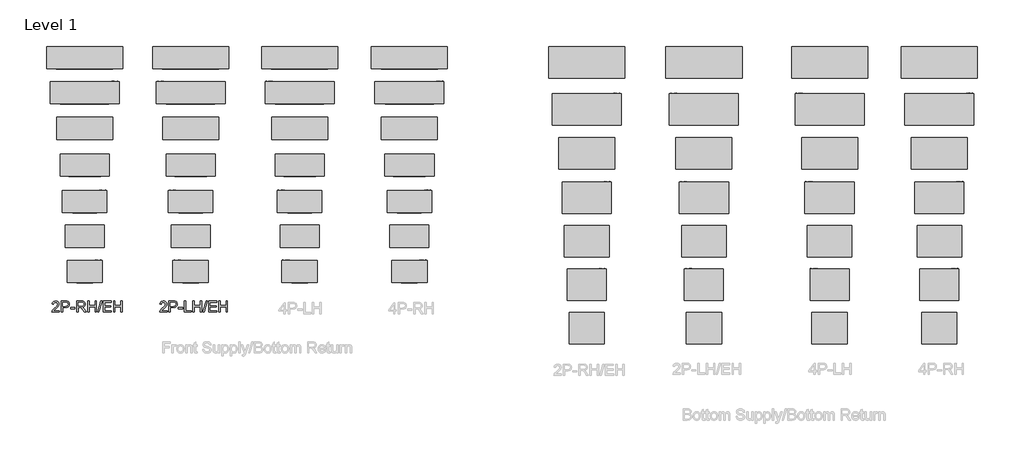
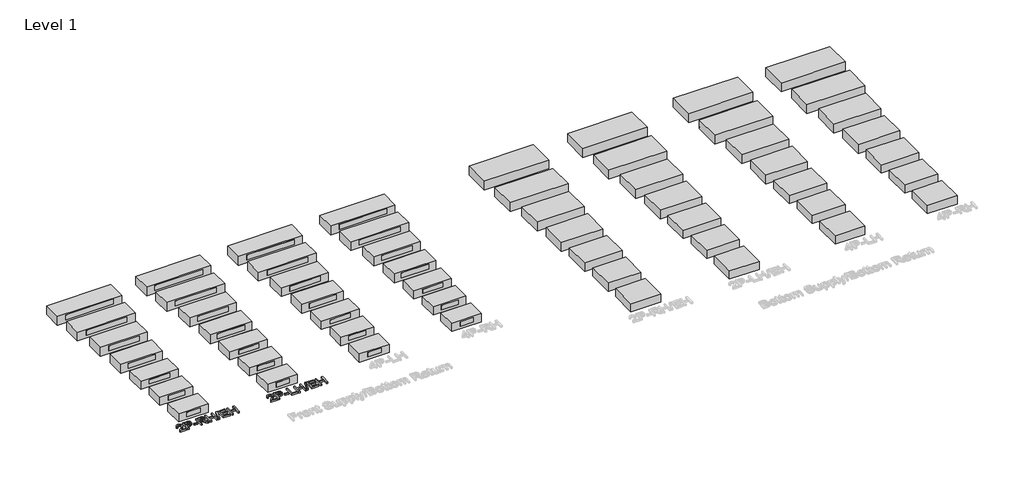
# One storey, part 1 of 3: 58 proxies.
"""IFC4 building model written with IfcOpenShell, lengths in millimetres."""

from ifc_helpers import new_model, si_unit, origin, origin_with_axes, place, context, project, spatial, polyline, outline, extrude, transform, mapped, element, save
from components import mechanical_equipment_5ee57af4, mechanical_equipment_e465686b, mechanical_equipment_94f99954, mechanical_equipment_ac6c5931, mechanical_equipment_21327851, mechanical_equipment_da27d940, mechanical_equipment_d7bd8505, mechanical_equipment_d0c3bb7a, mechanical_equipment_c078aeba, mechanical_equipment_1a6eef26, mechanical_equipment_794acc92, mechanical_equipment_6c2658dc, mechanical_equipment_a888a23b, mechanical_equipment_3c0bcfd1, mechanical_equipment_0ee400d0, mechanical_equipment_7b0bbd4d, mechanical_equipment_0ba431d4, mechanical_equipment_149bba12, mechanical_equipment_08224178, mechanical_equipment_e0740a78, mechanical_equipment_6e790af8, mechanical_equipment_f0572493, mechanical_equipment_2356f45e, mechanical_equipment_0d85670f, mechanical_equipment_b646ea03, mechanical_equipment_96186353, mechanical_equipment_3e15ce00, mechanical_equipment_b5fd1289, mechanical_equipment_5cce3134, mechanical_equipment_e1928472, mechanical_equipment_f42b3099, mechanical_equipment_954641ab, mechanical_equipment_68a452e6, mechanical_equipment_6dd201c2, mechanical_equipment_812de0b3, mechanical_equipment_b571c7ca, mechanical_equipment_8cf3cfa9, mechanical_equipment_150578db, mechanical_equipment_9e45b63e, mechanical_equipment_c74f09e5, mechanical_equipment_b96b5262, mechanical_equipment_1a19e6a5, mechanical_equipment_698a5b52, mechanical_equipment_a5131ff5, mechanical_equipment_9d567b45, mechanical_equipment_0be943ba, mechanical_equipment_d7096ecd, mechanical_equipment_69ed5b6a, mechanical_equipment_0c63f588, mechanical_equipment_85c1250f, mechanical_equipment_f442c28c, mechanical_equipment_c241eb8b, mechanical_equipment_f25a14e5, mechanical_equipment_fc63b11a, mechanical_equipment_cb84b873, mechanical_equipment_ee9fbc93

model = new_model("IFC4")

# Units and contexts
model_context = context("Model", 3, world=origin())
ifc_project = project(units=[si_unit("LENGTHUNIT", "METRE", prefix="MILLI")], contexts=[model_context])

# Site, building, storey
site = spatial("IfcSite", under=ifc_project)
building = spatial("IfcBuilding", under=site)
storey = spatial("IfcBuildingStorey", under=building, Name="Level 1", Elevation=0.0)

# Proxies
placement = place(None, origin())
mechanical_equipment_shape = mechanical_equipment_5ee57af4(model_context)
element("IfcBuildingElementProxy", 1, Name="Exposed_Horizontal_Fan_Coil_Unit_-_42CGB_-_CARRIER_-_2-Pipe_Cool-EHeat_FS-BR_RH_2022 : Size 02 - 277v/60Hz/1Ph - 4 Row 2.0kW", ObjectType="Exposed_Horizontal_Fan_Coil_Unit_-_42CGB_-_CARRIER_-_2-Pipe_Cool-EHeat_FS-BR_RH_2022 : Size 02 - 277v/60Hz/1Ph - 4 Row 2.0kW", at=placement, inside=storey, context=model_context, shape_type="MappedRepresentation", body=[
    mapped(mechanical_equipment_shape, transform((-11356.1371059, -1561.6323229, 0.0), x_axis=(1.0, 0.0, 0.0), y_axis=(0.0, 1.0, 0.0), z_axis=(0.0, 0.0, 1.0))),
])
mechanical_equipment_2_shape = mechanical_equipment_e465686b(model_context)
element("IfcBuildingElementProxy", 2, Name="Exposed_Horizontal_Fan_Coil_Unit_-_42CGB_-_CARRIER_-_2-Pipe_Cool-EHeat_FS-BR_RH_2022 : Size 03 - 277v/60Hz/1Ph - 4 Row 3.0kW", ObjectType="Exposed_Horizontal_Fan_Coil_Unit_-_42CGB_-_CARRIER_-_2-Pipe_Cool-EHeat_FS-BR_RH_2022 : Size 03 - 277v/60Hz/1Ph - 4 Row 3.0kW", at=placement, inside=storey, context=model_context, shape_type="MappedRepresentation", body=[
    mapped(mechanical_equipment_2_shape, transform((-11356.1371059, -600.095026, 0.0), x_axis=(1.0, 0.0, 0.0), y_axis=(0.0, 1.0, 0.0), z_axis=(0.0, 0.0, 1.0))),
])
mechanical_equipment_3_shape = mechanical_equipment_94f99954(model_context)
element("IfcBuildingElementProxy", 3, Name="Exposed_Horizontal_Fan_Coil_Unit_-_42CGB_-_CARRIER_-_2-Pipe_Cool-EHeat_FS-BR_RH_2022 : Size 04 - 277v/60Hz/1Ph - 4 Row 3.0kW", ObjectType="Exposed_Horizontal_Fan_Coil_Unit_-_42CGB_-_CARRIER_-_2-Pipe_Cool-EHeat_FS-BR_RH_2022 : Size 04 - 277v/60Hz/1Ph - 4 Row 3.0kW", at=placement, inside=storey, context=model_context, shape_type="MappedRepresentation", body=[
    mapped(mechanical_equipment_3_shape, transform((-11356.1371059, 353.6879379, 0.0), x_axis=(1.0, 0.0, 0.0), y_axis=(0.0, 1.0, 0.0), z_axis=(0.0, 0.0, 1.0))),
])
mechanical_equipment_4_shape = mechanical_equipment_ac6c5931(model_context)
element("IfcBuildingElementProxy", 4, Name="Exposed_Horizontal_Fan_Coil_Unit_-_42CGB_-_CARRIER_-_2-Pipe_Cool-EHeat_FS-BR_RH_2022 : Size 06 - 277v/60Hz/1Ph - 4 Row 6.0kW", ObjectType="Exposed_Horizontal_Fan_Coil_Unit_-_42CGB_-_CARRIER_-_2-Pipe_Cool-EHeat_FS-BR_RH_2022 : Size 06 - 277v/60Hz/1Ph - 4 Row 6.0kW", at=placement, inside=storey, context=model_context, shape_type="MappedRepresentation", body=[
    mapped(mechanical_equipment_4_shape, transform((-11356.1371059, 1346.2425669, 0.0), x_axis=(1.0, 0.0, 0.0), y_axis=(0.0, 1.0, 0.0), z_axis=(0.0, 0.0, 1.0))),
])
mechanical_equipment_5_shape = mechanical_equipment_21327851(model_context)
element("IfcBuildingElementProxy", 5, Name="Exposed_Horizontal_Fan_Coil_Unit_-_42CGB_-_CARRIER_-_2-Pipe_Cool-EHeat_FS-BR_RH_2022 : Size 08 - 277v/60Hz/1Ph - 4 Row 6.0kW", ObjectType="Exposed_Horizontal_Fan_Coil_Unit_-_42CGB_-_CARRIER_-_2-Pipe_Cool-EHeat_FS-BR_RH_2022 : Size 08 - 277v/60Hz/1Ph - 4 Row 6.0kW", at=placement, inside=storey, context=model_context, shape_type="MappedRepresentation", body=[
    mapped(mechanical_equipment_5_shape, transform((-11356.1371059, 2354.3058621, 0.0), x_axis=(1.0, 0.0, 0.0), y_axis=(0.0, 1.0, 0.0), z_axis=(0.0, 0.0, 1.0))),
])
mechanical_equipment_6_shape = mechanical_equipment_da27d940(model_context)
element("IfcBuildingElementProxy", 6, Name="Exposed_Horizontal_Fan_Coil_Unit_-_42CGB_-_CARRIER_-_2-Pipe_Cool-EHeat_FS-BR_RH_2022 : Size 10 - 277v/60Hz/1Ph - 4 Row 8.0kW", ObjectType="Exposed_Horizontal_Fan_Coil_Unit_-_42CGB_-_CARRIER_-_2-Pipe_Cool-EHeat_FS-BR_RH_2022 : Size 10 - 277v/60Hz/1Ph - 4 Row 8.0kW", at=placement, inside=storey, context=model_context, shape_type="MappedRepresentation", body=[
    mapped(mechanical_equipment_6_shape, transform((-11356.1371059, 3331.351825, 0.0), x_axis=(1.0, 0.0, 0.0), y_axis=(0.0, 1.0, 0.0), z_axis=(0.0, 0.0, 1.0))),
])
mechanical_equipment_7_shape = mechanical_equipment_d7bd8505(model_context)
element("IfcBuildingElementProxy", 7, Name="Exposed_Horizontal_Fan_Coil_Unit_-_42CGB_-_CARRIER_-_2-Pipe_Cool-EHeat_FS-BR_RH_2022 : Size 12 - 277v/60Hz/1Ph - 4 Row 10.0kW", ObjectType="Exposed_Horizontal_Fan_Coil_Unit_-_42CGB_-_CARRIER_-_2-Pipe_Cool-EHeat_FS-BR_RH_2022 : Size 12 - 277v/60Hz/1Ph - 4 Row 10.0kW", at=placement, inside=storey, context=model_context, shape_type="MappedRepresentation", body=[
    mapped(mechanical_equipment_7_shape, transform((-11356.1371059, 4282.0225867, 0.0), x_axis=(1.0, 0.0, 0.0), y_axis=(0.0, 1.0, 0.0), z_axis=(0.0, 0.0, 1.0))),
])
mechanical_equipment_8_shape = mechanical_equipment_d0c3bb7a(model_context)
element("IfcBuildingElementProxy", 8, Name="Exposed_Horizontal_Fan_Coil_Unit_-_42CGB_-_CARRIER_-_4-Pipe_FS-BR_RH_2022 : Size 02 - 277v/60Hz/1Ph - 4/1 Coil", ObjectType="Exposed_Horizontal_Fan_Coil_Unit_-_42CGB_-_CARRIER_-_4-Pipe_FS-BR_RH_2022 : Size 02 - 277v/60Hz/1Ph - 4/1 Coil", at=placement, inside=storey, context=model_context, shape_type="MappedRepresentation", body=[
    mapped(mechanical_equipment_8_shape, transform((-2485.6732188, -1561.6323229, 0.0), x_axis=(1.0, 0.0, 0.0), y_axis=(0.0, 1.0, 0.0), z_axis=(0.0, 0.0, 1.0))),
])
mechanical_equipment_9_shape = mechanical_equipment_c078aeba(model_context)
element("IfcBuildingElementProxy", 9, Name="Exposed_Horizontal_Fan_Coil_Unit_-_42CGB_-_CARRIER_-_4-Pipe_FS-BR_RH_2022 : Size 03 - 277v/60Hz/1Ph - 4/1 Coil", ObjectType="Exposed_Horizontal_Fan_Coil_Unit_-_42CGB_-_CARRIER_-_4-Pipe_FS-BR_RH_2022 : Size 03 - 277v/60Hz/1Ph - 4/1 Coil", at=placement, inside=storey, context=model_context, shape_type="MappedRepresentation", body=[
    mapped(mechanical_equipment_9_shape, transform((-2485.6732188, -600.095026, 0.0), x_axis=(1.0, 0.0, 0.0), y_axis=(0.0, 1.0, 0.0), z_axis=(0.0, 0.0, 1.0))),
])
mechanical_equipment_10_shape = mechanical_equipment_1a6eef26(model_context)
element("IfcBuildingElementProxy", 10, Name="Exposed_Horizontal_Fan_Coil_Unit_-_42CGB_-_CARRIER_-_4-Pipe_FS-BR_RH_2022 : Size 04 - 277v/60Hz/1Ph - 4/1 Coil", ObjectType="Exposed_Horizontal_Fan_Coil_Unit_-_42CGB_-_CARRIER_-_4-Pipe_FS-BR_RH_2022 : Size 04 - 277v/60Hz/1Ph - 4/1 Coil", at=placement, inside=storey, context=model_context, shape_type="MappedRepresentation", body=[
    mapped(mechanical_equipment_10_shape, transform((-2485.6732188, 353.6879379, 0.0), x_axis=(1.0, 0.0, 0.0), y_axis=(0.0, 1.0, 0.0), z_axis=(0.0, 0.0, 1.0))),
])
mechanical_equipment_11_shape = mechanical_equipment_794acc92(model_context)
element("IfcBuildingElementProxy", 11, Name="Exposed_Horizontal_Fan_Coil_Unit_-_42CGB_-_CARRIER_-_4-Pipe_FS-BR_RH_2022 : Size 06 - 277v/60Hz/1Ph - 4/1 Coil", ObjectType="Exposed_Horizontal_Fan_Coil_Unit_-_42CGB_-_CARRIER_-_4-Pipe_FS-BR_RH_2022 : Size 06 - 277v/60Hz/1Ph - 4/1 Coil", at=placement, inside=storey, context=model_context, shape_type="MappedRepresentation", body=[
    mapped(mechanical_equipment_11_shape, transform((-2485.6732188, 1346.2425669, 0.0), x_axis=(1.0, 0.0, 0.0), y_axis=(0.0, 1.0, 0.0), z_axis=(0.0, 0.0, 1.0))),
])
mechanical_equipment_12_shape = mechanical_equipment_6c2658dc(model_context)
element("IfcBuildingElementProxy", 12, Name="Exposed_Horizontal_Fan_Coil_Unit_-_42CGB_-_CARRIER_-_4-Pipe_FS-BR_RH_2022 : Size 08 - 277v/60Hz/1Ph - 4/1 Coil", ObjectType="Exposed_Horizontal_Fan_Coil_Unit_-_42CGB_-_CARRIER_-_4-Pipe_FS-BR_RH_2022 : Size 08 - 277v/60Hz/1Ph - 4/1 Coil", at=placement, inside=storey, context=model_context, shape_type="MappedRepresentation", body=[
    mapped(mechanical_equipment_12_shape, transform((-2485.6732188, 2354.3058621, 0.0), x_axis=(1.0, 0.0, 0.0), y_axis=(0.0, 1.0, 0.0), z_axis=(0.0, 0.0, 1.0))),
])
mechanical_equipment_13_shape = mechanical_equipment_a888a23b(model_context)
element("IfcBuildingElementProxy", 13, Name="Exposed_Horizontal_Fan_Coil_Unit_-_42CGB_-_CARRIER_-_4-Pipe_FS-BR_RH_2022 : Size 10 - 277v/60Hz/1Ph - 4/1 Coil", ObjectType="Exposed_Horizontal_Fan_Coil_Unit_-_42CGB_-_CARRIER_-_4-Pipe_FS-BR_RH_2022 : Size 10 - 277v/60Hz/1Ph - 4/1 Coil", at=placement, inside=storey, context=model_context, shape_type="MappedRepresentation", body=[
    mapped(mechanical_equipment_13_shape, transform((-2485.6732188, 3331.351825, 0.0), x_axis=(1.0, 0.0, 0.0), y_axis=(0.0, 1.0, 0.0), z_axis=(0.0, 0.0, 1.0))),
])
mechanical_equipment_14_shape = mechanical_equipment_3c0bcfd1(model_context)
element("IfcBuildingElementProxy", 14, Name="Exposed_Horizontal_Fan_Coil_Unit_-_42CGB_-_CARRIER_-_4-Pipe_FS-BR_RH_2022 : Size 12 - 277v/60Hz/1Ph - 4/1 Coil", ObjectType="Exposed_Horizontal_Fan_Coil_Unit_-_42CGB_-_CARRIER_-_4-Pipe_FS-BR_RH_2022 : Size 12 - 277v/60Hz/1Ph - 4/1 Coil", at=placement, inside=storey, context=model_context, shape_type="MappedRepresentation", body=[
    mapped(mechanical_equipment_14_shape, transform((-2485.6732188, 4282.0225867, 0.0), x_axis=(1.0, 0.0, 0.0), y_axis=(0.0, 1.0, 0.0), z_axis=(0.0, 0.0, 1.0))),
])
mechanical_equipment_15_shape = mechanical_equipment_0ee400d0(model_context)
element("IfcBuildingElementProxy", 15, Name="Exposed_Horizontal_Fan_Coil_Unit_-_42CGB_-_CARRIER_-_2-Pipe_Cool-EHeat_BS-BR_LH_2022 : Size 02 - 277v/60Hz/1Ph - 4 Row 2.0kW", ObjectType="Exposed_Horizontal_Fan_Coil_Unit_-_42CGB_-_CARRIER_-_2-Pipe_Cool-EHeat_BS-BR_LH_2022 : Size 02 - 277v/60Hz/1Ph - 4 Row 2.0kW", at=placement, inside=storey, context=model_context, shape_type="MappedRepresentation", body=[
    mapped(mechanical_equipment_15_shape, transform((5560.2628941, -3111.0323229, 0.0), x_axis=(1.0, 0.0, 0.0), y_axis=(0.0, 1.0, 0.0), z_axis=(0.0, 0.0, 1.0))),
])
mechanical_equipment_16_shape = mechanical_equipment_7b0bbd4d(model_context)
element("IfcBuildingElementProxy", 16, Name="Exposed_Horizontal_Fan_Coil_Unit_-_42CGB_-_CARRIER_-_2-Pipe_Cool-EHeat_BS-BR_LH_2022 : Size 03 - 277v/60Hz/1Ph - 4 Row 3.0kW", ObjectType="Exposed_Horizontal_Fan_Coil_Unit_-_42CGB_-_CARRIER_-_2-Pipe_Cool-EHeat_BS-BR_LH_2022 : Size 03 - 277v/60Hz/1Ph - 4 Row 3.0kW", at=placement, inside=storey, context=model_context, shape_type="MappedRepresentation", body=[
    mapped(mechanical_equipment_16_shape, transform((5560.2628941, -1920.895026, 0.0), x_axis=(1.0, 0.0, 0.0), y_axis=(0.0, 1.0, 0.0), z_axis=(0.0, 0.0, 1.0))),
])
mechanical_equipment_17_shape = mechanical_equipment_0ba431d4(model_context)
element("IfcBuildingElementProxy", 17, Name="Exposed_Horizontal_Fan_Coil_Unit_-_42CGB_-_CARRIER_-_2-Pipe_Cool-EHeat_BS-BR_LH_2022 : Size 04 - 277v/60Hz/1Ph - 4 Row 3.0kW", ObjectType="Exposed_Horizontal_Fan_Coil_Unit_-_42CGB_-_CARRIER_-_2-Pipe_Cool-EHeat_BS-BR_LH_2022 : Size 04 - 277v/60Hz/1Ph - 4 Row 3.0kW", at=placement, inside=storey, context=model_context, shape_type="MappedRepresentation", body=[
    mapped(mechanical_equipment_17_shape, transform((5560.2628941, -738.5120621, 0.0), x_axis=(1.0, 0.0, 0.0), y_axis=(0.0, 1.0, 0.0), z_axis=(0.0, 0.0, 1.0))),
])
mechanical_equipment_18_shape = mechanical_equipment_149bba12(model_context)
element("IfcBuildingElementProxy", 18, Name="Exposed_Horizontal_Fan_Coil_Unit_-_42CGB_-_CARRIER_-_2-Pipe_Cool-EHeat_BS-BR_LH_2022 : Size 06 - 277v/60Hz/1Ph - 4 Row 6.0kW", ObjectType="Exposed_Horizontal_Fan_Coil_Unit_-_42CGB_-_CARRIER_-_2-Pipe_Cool-EHeat_BS-BR_LH_2022 : Size 06 - 277v/60Hz/1Ph - 4 Row 6.0kW", at=placement, inside=storey, context=model_context, shape_type="MappedRepresentation", body=[
    mapped(mechanical_equipment_18_shape, transform((5560.2628941, 457.2425669, 0.0), x_axis=(1.0, 0.0, 0.0), y_axis=(0.0, 1.0, 0.0), z_axis=(0.0, 0.0, 1.0))),
])
mechanical_equipment_19_shape = mechanical_equipment_08224178(model_context)
element("IfcBuildingElementProxy", 19, Name="Exposed_Horizontal_Fan_Coil_Unit_-_42CGB_-_CARRIER_-_2-Pipe_Cool-EHeat_BS-BR_LH_2022 : Size 08 - 277v/60Hz/1Ph - 4 Row 6.0kW", ObjectType="Exposed_Horizontal_Fan_Coil_Unit_-_42CGB_-_CARRIER_-_2-Pipe_Cool-EHeat_BS-BR_LH_2022 : Size 08 - 277v/60Hz/1Ph - 4 Row 6.0kW", at=placement, inside=storey, context=model_context, shape_type="MappedRepresentation", body=[
    mapped(mechanical_equipment_19_shape, transform((5560.2628941, 1668.5058621, 0.0), x_axis=(1.0, 0.0, 0.0), y_axis=(0.0, 1.0, 0.0), z_axis=(0.0, 0.0, 1.0))),
])
mechanical_equipment_20_shape = mechanical_equipment_e0740a78(model_context)
element("IfcBuildingElementProxy", 20, Name="Exposed_Horizontal_Fan_Coil_Unit_-_42CGB_-_CARRIER_-_2-Pipe_Cool-EHeat_BS-BR_LH_2022 : Size 10 - 277v/60Hz/1Ph - 4 Row 8.0kW", ObjectType="Exposed_Horizontal_Fan_Coil_Unit_-_42CGB_-_CARRIER_-_2-Pipe_Cool-EHeat_BS-BR_LH_2022 : Size 10 - 277v/60Hz/1Ph - 4 Row 8.0kW", at=placement, inside=storey, context=model_context, shape_type="MappedRepresentation", body=[
    mapped(mechanical_equipment_20_shape, transform((5560.2628941, 2874.151825, 0.0), x_axis=(1.0, 0.0, 0.0), y_axis=(0.0, 1.0, 0.0), z_axis=(0.0, 0.0, 1.0))),
])
mechanical_equipment_21_shape = mechanical_equipment_6e790af8(model_context)
element("IfcBuildingElementProxy", 21, Name="Exposed_Horizontal_Fan_Coil_Unit_-_42CGB_-_CARRIER_-_2-Pipe_Cool-EHeat_BS-BR_LH_2022 : Size 12 - 277v/60Hz/1Ph - 4 Row 10.0kW", ObjectType="Exposed_Horizontal_Fan_Coil_Unit_-_42CGB_-_CARRIER_-_2-Pipe_Cool-EHeat_BS-BR_LH_2022 : Size 12 - 277v/60Hz/1Ph - 4 Row 10.0kW", at=placement, inside=storey, context=model_context, shape_type="MappedRepresentation", body=[
    mapped(mechanical_equipment_21_shape, transform((5560.2628941, 4155.0225867, 0.0), x_axis=(1.0, 0.0, 0.0), y_axis=(0.0, 1.0, 0.0), z_axis=(0.0, 0.0, 1.0))),
])
mechanical_equipment_22_shape = mechanical_equipment_f0572493(model_context)
element("IfcBuildingElementProxy", 22, Name="Exposed_Horizontal_Fan_Coil_Unit_-_42CGB_-_CARRIER_-_2-Pipe_Cool-EHeat_BS-BR_RH_2022 : Size 02 - 277v/60Hz/1Ph - 4 Row 2.0kW", ObjectType="Exposed_Horizontal_Fan_Coil_Unit_-_42CGB_-_CARRIER_-_2-Pipe_Cool-EHeat_BS-BR_RH_2022 : Size 02 - 277v/60Hz/1Ph - 4 Row 2.0kW", at=placement, inside=storey, context=model_context, shape_type="MappedRepresentation", body=[
    mapped(mechanical_equipment_22_shape, transform((2359.8628941, -3111.0323229, 0.0), x_axis=(1.0, 0.0, 0.0), y_axis=(0.0, 1.0, 0.0), z_axis=(0.0, 0.0, 1.0))),
])
mechanical_equipment_23_shape = mechanical_equipment_2356f45e(model_context)
element("IfcBuildingElementProxy", 23, Name="Exposed_Horizontal_Fan_Coil_Unit_-_42CGB_-_CARRIER_-_2-Pipe_Cool-EHeat_BS-BR_RH_2022 : Size 03 - 277v/60Hz/1Ph - 4 Row 3.0kW", ObjectType="Exposed_Horizontal_Fan_Coil_Unit_-_42CGB_-_CARRIER_-_2-Pipe_Cool-EHeat_BS-BR_RH_2022 : Size 03 - 277v/60Hz/1Ph - 4 Row 3.0kW", at=placement, inside=storey, context=model_context, shape_type="MappedRepresentation", body=[
    mapped(mechanical_equipment_23_shape, transform((2359.8628941, -1920.895026, 0.0), x_axis=(1.0, 0.0, 0.0), y_axis=(0.0, 1.0, 0.0), z_axis=(0.0, 0.0, 1.0))),
])
mechanical_equipment_24_shape = mechanical_equipment_0d85670f(model_context)
element("IfcBuildingElementProxy", 24, Name="Exposed_Horizontal_Fan_Coil_Unit_-_42CGB_-_CARRIER_-_2-Pipe_Cool-EHeat_BS-BR_RH_2022 : Size 04 - 277v/60Hz/1Ph - 4 Row 3.0kW", ObjectType="Exposed_Horizontal_Fan_Coil_Unit_-_42CGB_-_CARRIER_-_2-Pipe_Cool-EHeat_BS-BR_RH_2022 : Size 04 - 277v/60Hz/1Ph - 4 Row 3.0kW", at=placement, inside=storey, context=model_context, shape_type="MappedRepresentation", body=[
    mapped(mechanical_equipment_24_shape, transform((2359.8628941, -738.5120621, 0.0), x_axis=(1.0, 0.0, 0.0), y_axis=(0.0, 1.0, 0.0), z_axis=(0.0, 0.0, 1.0))),
])
mechanical_equipment_25_shape = mechanical_equipment_b646ea03(model_context)
element("IfcBuildingElementProxy", 25, Name="Exposed_Horizontal_Fan_Coil_Unit_-_42CGB_-_CARRIER_-_2-Pipe_Cool-EHeat_BS-BR_RH_2022 : Size 06 - 277v/60Hz/1Ph - 4 Row 6.0kW", ObjectType="Exposed_Horizontal_Fan_Coil_Unit_-_42CGB_-_CARRIER_-_2-Pipe_Cool-EHeat_BS-BR_RH_2022 : Size 06 - 277v/60Hz/1Ph - 4 Row 6.0kW", at=placement, inside=storey, context=model_context, shape_type="MappedRepresentation", body=[
    mapped(mechanical_equipment_25_shape, transform((2359.8628941, 457.2425669, 0.0), x_axis=(1.0, 0.0, 0.0), y_axis=(0.0, 1.0, 0.0), z_axis=(0.0, 0.0, 1.0))),
])
mechanical_equipment_26_shape = mechanical_equipment_96186353(model_context)
element("IfcBuildingElementProxy", 26, Name="Exposed_Horizontal_Fan_Coil_Unit_-_42CGB_-_CARRIER_-_2-Pipe_Cool-EHeat_BS-BR_RH_2022 : Size 08 - 277v/60Hz/1Ph - 4 Row 6.0kW", ObjectType="Exposed_Horizontal_Fan_Coil_Unit_-_42CGB_-_CARRIER_-_2-Pipe_Cool-EHeat_BS-BR_RH_2022 : Size 08 - 277v/60Hz/1Ph - 4 Row 6.0kW", at=placement, inside=storey, context=model_context, shape_type="MappedRepresentation", body=[
    mapped(mechanical_equipment_26_shape, transform((2359.8628941, 1668.5058621, 0.0), x_axis=(1.0, 0.0, 0.0), y_axis=(0.0, 1.0, 0.0), z_axis=(0.0, 0.0, 1.0))),
])
mechanical_equipment_27_shape = mechanical_equipment_3e15ce00(model_context)
element("IfcBuildingElementProxy", 27, Name="Exposed_Horizontal_Fan_Coil_Unit_-_42CGB_-_CARRIER_-_2-Pipe_Cool-EHeat_BS-BR_RH_2022 : Size 10 - 277v/60Hz/1Ph - 4 Row 8.0kW", ObjectType="Exposed_Horizontal_Fan_Coil_Unit_-_42CGB_-_CARRIER_-_2-Pipe_Cool-EHeat_BS-BR_RH_2022 : Size 10 - 277v/60Hz/1Ph - 4 Row 8.0kW", at=placement, inside=storey, context=model_context, shape_type="MappedRepresentation", body=[
    mapped(mechanical_equipment_27_shape, transform((2359.8628941, 2874.151825, 0.0), x_axis=(1.0, 0.0, 0.0), y_axis=(0.0, 1.0, 0.0), z_axis=(0.0, 0.0, 1.0))),
])
mechanical_equipment_28_shape = mechanical_equipment_b5fd1289(model_context)
element("IfcBuildingElementProxy", 28, Name="Exposed_Horizontal_Fan_Coil_Unit_-_42CGB_-_CARRIER_-_2-Pipe_Cool-EHeat_BS-BR_RH_2022 : Size 12 - 277v/60Hz/1Ph - 4 Row 10.0kW", ObjectType="Exposed_Horizontal_Fan_Coil_Unit_-_42CGB_-_CARRIER_-_2-Pipe_Cool-EHeat_BS-BR_RH_2022 : Size 12 - 277v/60Hz/1Ph - 4 Row 10.0kW", at=placement, inside=storey, context=model_context, shape_type="MappedRepresentation", body=[
    mapped(mechanical_equipment_28_shape, transform((2359.8628941, 4155.0225867, 0.0), x_axis=(1.0, 0.0, 0.0), y_axis=(0.0, 1.0, 0.0), z_axis=(0.0, 0.0, 1.0))),
])
mechanical_equipment_29_shape = mechanical_equipment_5cce3134(model_context)
element("IfcBuildingElementProxy", 29, Name="Exposed_Horizontal_Fan_Coil_Unit_-_42CGB_-_CARRIER_-_4-Pipe_BS-BR_LH_2022 : Size 02 - 277v/60Hz/1Ph - 4/1 Coil", ObjectType="Exposed_Horizontal_Fan_Coil_Unit_-_42CGB_-_CARRIER_-_4-Pipe_BS-BR_LH_2022 : Size 02 - 277v/60Hz/1Ph - 4/1 Coil", at=placement, inside=storey, context=model_context, shape_type="MappedRepresentation", body=[
    mapped(mechanical_equipment_29_shape, transform((8995.1267812, -3111.0323229, 0.0), x_axis=(1.0, 0.0, 0.0), y_axis=(0.0, 1.0, 0.0), z_axis=(0.0, 0.0, 1.0))),
])
mechanical_equipment_30_shape = mechanical_equipment_e1928472(model_context)
element("IfcBuildingElementProxy", 30, Name="Exposed_Horizontal_Fan_Coil_Unit_-_42CGB_-_CARRIER_-_4-Pipe_BS-BR_LH_2022 : Size 03 - 277v/60Hz/1Ph - 4/1 Coil", ObjectType="Exposed_Horizontal_Fan_Coil_Unit_-_42CGB_-_CARRIER_-_4-Pipe_BS-BR_LH_2022 : Size 03 - 277v/60Hz/1Ph - 4/1 Coil", at=placement, inside=storey, context=model_context, shape_type="MappedRepresentation", body=[
    mapped(mechanical_equipment_30_shape, transform((8995.1267812, -1920.895026, 0.0), x_axis=(1.0, 0.0, 0.0), y_axis=(0.0, 1.0, 0.0), z_axis=(0.0, 0.0, 1.0))),
])
mechanical_equipment_31_shape = mechanical_equipment_f42b3099(model_context)
element("IfcBuildingElementProxy", 31, Name="Exposed_Horizontal_Fan_Coil_Unit_-_42CGB_-_CARRIER_-_4-Pipe_BS-BR_LH_2022 : Size 04 - 277v/60Hz/1Ph - 4/1 Coil", ObjectType="Exposed_Horizontal_Fan_Coil_Unit_-_42CGB_-_CARRIER_-_4-Pipe_BS-BR_LH_2022 : Size 04 - 277v/60Hz/1Ph - 4/1 Coil", at=placement, inside=storey, context=model_context, shape_type="MappedRepresentation", body=[
    mapped(mechanical_equipment_31_shape, transform((8995.1267812, -738.5120621, 0.0), x_axis=(1.0, 0.0, 0.0), y_axis=(0.0, 1.0, 0.0), z_axis=(0.0, 0.0, 1.0))),
])
mechanical_equipment_32_shape = mechanical_equipment_954641ab(model_context)
element("IfcBuildingElementProxy", 32, Name="Exposed_Horizontal_Fan_Coil_Unit_-_42CGB_-_CARRIER_-_4-Pipe_BS-BR_LH_2022 : Size 06 - 277v/60Hz/1Ph - 4/1 Coil", ObjectType="Exposed_Horizontal_Fan_Coil_Unit_-_42CGB_-_CARRIER_-_4-Pipe_BS-BR_LH_2022 : Size 06 - 277v/60Hz/1Ph - 4/1 Coil", at=placement, inside=storey, context=model_context, shape_type="MappedRepresentation", body=[
    mapped(mechanical_equipment_32_shape, transform((8995.1267812, 457.2425669, 0.0), x_axis=(1.0, 0.0, 0.0), y_axis=(0.0, 1.0, 0.0), z_axis=(0.0, 0.0, 1.0))),
])
mechanical_equipment_33_shape = mechanical_equipment_68a452e6(model_context)
element("IfcBuildingElementProxy", 33, Name="Exposed_Horizontal_Fan_Coil_Unit_-_42CGB_-_CARRIER_-_4-Pipe_BS-BR_LH_2022 : Size 08 - 277v/60Hz/1Ph - 4/1 Coil", ObjectType="Exposed_Horizontal_Fan_Coil_Unit_-_42CGB_-_CARRIER_-_4-Pipe_BS-BR_LH_2022 : Size 08 - 277v/60Hz/1Ph - 4/1 Coil", at=placement, inside=storey, context=model_context, shape_type="MappedRepresentation", body=[
    mapped(mechanical_equipment_33_shape, transform((8995.1267812, 1668.5058621, 0.0), x_axis=(1.0, 0.0, 0.0), y_axis=(0.0, 1.0, 0.0), z_axis=(0.0, 0.0, 1.0))),
])
mechanical_equipment_34_shape = mechanical_equipment_6dd201c2(model_context)
element("IfcBuildingElementProxy", 34, Name="Exposed_Horizontal_Fan_Coil_Unit_-_42CGB_-_CARRIER_-_4-Pipe_BS-BR_LH_2022 : Size 10 - 277v/60Hz/1Ph - 4/1 Coil", ObjectType="Exposed_Horizontal_Fan_Coil_Unit_-_42CGB_-_CARRIER_-_4-Pipe_BS-BR_LH_2022 : Size 10 - 277v/60Hz/1Ph - 4/1 Coil", at=placement, inside=storey, context=model_context, shape_type="MappedRepresentation", body=[
    mapped(mechanical_equipment_34_shape, transform((8995.1267812, 2874.151825, 0.0), x_axis=(1.0, 0.0, 0.0), y_axis=(0.0, 1.0, 0.0), z_axis=(0.0, 0.0, 1.0))),
])
mechanical_equipment_35_shape = mechanical_equipment_812de0b3(model_context)
element("IfcBuildingElementProxy", 35, Name="Exposed_Horizontal_Fan_Coil_Unit_-_42CGB_-_CARRIER_-_4-Pipe_BS-BR_LH_2022 : Size 12 - 277v/60Hz/1Ph - 4/1 Coil", ObjectType="Exposed_Horizontal_Fan_Coil_Unit_-_42CGB_-_CARRIER_-_4-Pipe_BS-BR_LH_2022 : Size 12 - 277v/60Hz/1Ph - 4/1 Coil", at=placement, inside=storey, context=model_context, shape_type="MappedRepresentation", body=[
    mapped(mechanical_equipment_35_shape, transform((8995.1267812, 4155.0225867, 0.0), x_axis=(1.0, 0.0, 0.0), y_axis=(0.0, 1.0, 0.0), z_axis=(0.0, 0.0, 1.0))),
])
mechanical_equipment_36_shape = mechanical_equipment_b571c7ca(model_context)
element("IfcBuildingElementProxy", 36, Name="Exposed_Horizontal_Fan_Coil_Unit_-_42CGB_-_CARRIER_-_4-Pipe_BS-BR_RH_2022 : Size 02 - 277v/60Hz/1Ph - 4/1 Coil", ObjectType="Exposed_Horizontal_Fan_Coil_Unit_-_42CGB_-_CARRIER_-_4-Pipe_BS-BR_RH_2022 : Size 02 - 277v/60Hz/1Ph - 4/1 Coil", at=placement, inside=storey, context=model_context, shape_type="MappedRepresentation", body=[
    mapped(mechanical_equipment_36_shape, transform((11992.3267812, -3111.0323229, 0.0), x_axis=(1.0, 0.0, 0.0), y_axis=(0.0, 1.0, 0.0), z_axis=(0.0, 0.0, 1.0))),
])
mechanical_equipment_37_shape = mechanical_equipment_8cf3cfa9(model_context)
element("IfcBuildingElementProxy", 37, Name="Exposed_Horizontal_Fan_Coil_Unit_-_42CGB_-_CARRIER_-_4-Pipe_BS-BR_RH_2022 : Size 03 - 277v/60Hz/1Ph - 4/1 Coil", ObjectType="Exposed_Horizontal_Fan_Coil_Unit_-_42CGB_-_CARRIER_-_4-Pipe_BS-BR_RH_2022 : Size 03 - 277v/60Hz/1Ph - 4/1 Coil", at=placement, inside=storey, context=model_context, shape_type="MappedRepresentation", body=[
    mapped(mechanical_equipment_37_shape, transform((11992.3267812, -1920.895026, 0.0), x_axis=(1.0, 0.0, 0.0), y_axis=(0.0, 1.0, 0.0), z_axis=(0.0, 0.0, 1.0))),
])
mechanical_equipment_38_shape = mechanical_equipment_150578db(model_context)
element("IfcBuildingElementProxy", 38, Name="Exposed_Horizontal_Fan_Coil_Unit_-_42CGB_-_CARRIER_-_4-Pipe_BS-BR_RH_2022 : Size 04 - 277v/60Hz/1Ph - 4/1 Coil", ObjectType="Exposed_Horizontal_Fan_Coil_Unit_-_42CGB_-_CARRIER_-_4-Pipe_BS-BR_RH_2022 : Size 04 - 277v/60Hz/1Ph - 4/1 Coil", at=placement, inside=storey, context=model_context, shape_type="MappedRepresentation", body=[
    mapped(mechanical_equipment_38_shape, transform((11992.3267812, -738.5120621, 0.0), x_axis=(1.0, 0.0, 0.0), y_axis=(0.0, 1.0, 0.0), z_axis=(0.0, 0.0, 1.0))),
])
mechanical_equipment_39_shape = mechanical_equipment_9e45b63e(model_context)
element("IfcBuildingElementProxy", 39, Name="Exposed_Horizontal_Fan_Coil_Unit_-_42CGB_-_CARRIER_-_4-Pipe_BS-BR_RH_2022 : Size 06 - 277v/60Hz/1Ph - 4/1 Coil", ObjectType="Exposed_Horizontal_Fan_Coil_Unit_-_42CGB_-_CARRIER_-_4-Pipe_BS-BR_RH_2022 : Size 06 - 277v/60Hz/1Ph - 4/1 Coil", at=placement, inside=storey, context=model_context, shape_type="MappedRepresentation", body=[
    mapped(mechanical_equipment_39_shape, transform((11992.3267812, 457.2425669, 0.0), x_axis=(1.0, 0.0, 0.0), y_axis=(0.0, 1.0, 0.0), z_axis=(0.0, 0.0, 1.0))),
])
mechanical_equipment_40_shape = mechanical_equipment_c74f09e5(model_context)
element("IfcBuildingElementProxy", 40, Name="Exposed_Horizontal_Fan_Coil_Unit_-_42CGB_-_CARRIER_-_4-Pipe_BS-BR_RH_2022 : Size 08 - 277v/60Hz/1Ph - 4/1 Coil", ObjectType="Exposed_Horizontal_Fan_Coil_Unit_-_42CGB_-_CARRIER_-_4-Pipe_BS-BR_RH_2022 : Size 08 - 277v/60Hz/1Ph - 4/1 Coil", at=placement, inside=storey, context=model_context, shape_type="MappedRepresentation", body=[
    mapped(mechanical_equipment_40_shape, transform((11992.3267812, 1668.5058621, 0.0), x_axis=(1.0, 0.0, 0.0), y_axis=(0.0, 1.0, 0.0), z_axis=(0.0, 0.0, 1.0))),
])
mechanical_equipment_41_shape = mechanical_equipment_b96b5262(model_context)
element("IfcBuildingElementProxy", 41, Name="Exposed_Horizontal_Fan_Coil_Unit_-_42CGB_-_CARRIER_-_4-Pipe_BS-BR_RH_2022 : Size 10 - 277v/60Hz/1Ph - 4/1 Coil", ObjectType="Exposed_Horizontal_Fan_Coil_Unit_-_42CGB_-_CARRIER_-_4-Pipe_BS-BR_RH_2022 : Size 10 - 277v/60Hz/1Ph - 4/1 Coil", at=placement, inside=storey, context=model_context, shape_type="MappedRepresentation", body=[
    mapped(mechanical_equipment_41_shape, transform((11992.3267812, 2874.151825, 0.0), x_axis=(1.0, 0.0, 0.0), y_axis=(0.0, 1.0, 0.0), z_axis=(0.0, 0.0, 1.0))),
])
mechanical_equipment_42_shape = mechanical_equipment_1a19e6a5(model_context)
element("IfcBuildingElementProxy", 42, Name="Exposed_Horizontal_Fan_Coil_Unit_-_42CGB_-_CARRIER_-_4-Pipe_BS-BR_RH_2022 : Size 12 - 277v/60Hz/1Ph - 4/1 Coil", ObjectType="Exposed_Horizontal_Fan_Coil_Unit_-_42CGB_-_CARRIER_-_4-Pipe_BS-BR_RH_2022 : Size 12 - 277v/60Hz/1Ph - 4/1 Coil", at=placement, inside=storey, context=model_context, shape_type="MappedRepresentation", body=[
    mapped(mechanical_equipment_42_shape, transform((11992.3267812, 4155.0225867, 0.0), x_axis=(1.0, 0.0, 0.0), y_axis=(0.0, 1.0, 0.0), z_axis=(0.0, 0.0, 1.0))),
])
mechanical_equipment_43_shape = mechanical_equipment_698a5b52(model_context)
element("IfcBuildingElementProxy", 43, Name="Exposed_Horizontal_Fan_Coil_Unit_-_42CGB_-_CARRIER_-_2-Pipe_Cool-EHeat_FS-BR_LH_2022 : Size 02 - 277v/60Hz/1Ph - 4 Row 2.0kW", ObjectType="Exposed_Horizontal_Fan_Coil_Unit_-_42CGB_-_CARRIER_-_2-Pipe_Cool-EHeat_FS-BR_LH_2022 : Size 02 - 277v/60Hz/1Ph - 4 Row 2.0kW", at=placement, inside=storey, context=model_context, shape_type="MappedRepresentation", body=[
    mapped(mechanical_equipment_43_shape, transform((-8460.5371059, -1561.6323229, 0.0), x_axis=(1.0, 0.0, 0.0), y_axis=(0.0, 1.0, 0.0), z_axis=(0.0, 0.0, 1.0))),
])
mechanical_equipment_44_shape = mechanical_equipment_a5131ff5(model_context)
element("IfcBuildingElementProxy", 44, Name="Exposed_Horizontal_Fan_Coil_Unit_-_42CGB_-_CARRIER_-_2-Pipe_Cool-EHeat_FS-BR_LH_2022 : Size 03 - 277v/60Hz/1Ph - 4 Row 3.0kW", ObjectType="Exposed_Horizontal_Fan_Coil_Unit_-_42CGB_-_CARRIER_-_2-Pipe_Cool-EHeat_FS-BR_LH_2022 : Size 03 - 277v/60Hz/1Ph - 4 Row 3.0kW", at=placement, inside=storey, context=model_context, shape_type="MappedRepresentation", body=[
    mapped(mechanical_equipment_44_shape, transform((-8460.5371059, -600.095026, 0.0), x_axis=(1.0, 0.0, 0.0), y_axis=(0.0, 1.0, 0.0), z_axis=(0.0, 0.0, 1.0))),
])
mechanical_equipment_45_shape = mechanical_equipment_9d567b45(model_context)
element("IfcBuildingElementProxy", 45, Name="Exposed_Horizontal_Fan_Coil_Unit_-_42CGB_-_CARRIER_-_2-Pipe_Cool-EHeat_FS-BR_LH_2022 : Size 04 - 277v/60Hz/1Ph - 4 Row 3.0kW", ObjectType="Exposed_Horizontal_Fan_Coil_Unit_-_42CGB_-_CARRIER_-_2-Pipe_Cool-EHeat_FS-BR_LH_2022 : Size 04 - 277v/60Hz/1Ph - 4 Row 3.0kW", at=placement, inside=storey, context=model_context, shape_type="MappedRepresentation", body=[
    mapped(mechanical_equipment_45_shape, transform((-8460.5371059, 353.6879379, 0.0), x_axis=(1.0, 0.0, 0.0), y_axis=(0.0, 1.0, 0.0), z_axis=(0.0, 0.0, 1.0))),
])
mechanical_equipment_46_shape = mechanical_equipment_0be943ba(model_context)
element("IfcBuildingElementProxy", 46, Name="Exposed_Horizontal_Fan_Coil_Unit_-_42CGB_-_CARRIER_-_2-Pipe_Cool-EHeat_FS-BR_LH_2022 : Size 06 - 277v/60Hz/1Ph - 4 Row 6.0kW", ObjectType="Exposed_Horizontal_Fan_Coil_Unit_-_42CGB_-_CARRIER_-_2-Pipe_Cool-EHeat_FS-BR_LH_2022 : Size 06 - 277v/60Hz/1Ph - 4 Row 6.0kW", at=placement, inside=storey, context=model_context, shape_type="MappedRepresentation", body=[
    mapped(mechanical_equipment_46_shape, transform((-8460.5371059, 1346.2425669, 0.0), x_axis=(1.0, 0.0, 0.0), y_axis=(0.0, 1.0, 0.0), z_axis=(0.0, 0.0, 1.0))),
])
mechanical_equipment_47_shape = mechanical_equipment_d7096ecd(model_context)
element("IfcBuildingElementProxy", 47, Name="Exposed_Horizontal_Fan_Coil_Unit_-_42CGB_-_CARRIER_-_2-Pipe_Cool-EHeat_FS-BR_LH_2022 : Size 08 - 277v/60Hz/1Ph - 4 Row 6.0kW", ObjectType="Exposed_Horizontal_Fan_Coil_Unit_-_42CGB_-_CARRIER_-_2-Pipe_Cool-EHeat_FS-BR_LH_2022 : Size 08 - 277v/60Hz/1Ph - 4 Row 6.0kW", at=placement, inside=storey, context=model_context, shape_type="MappedRepresentation", body=[
    mapped(mechanical_equipment_47_shape, transform((-8460.5371059, 2354.3058621, 0.0), x_axis=(1.0, 0.0, 0.0), y_axis=(0.0, 1.0, 0.0), z_axis=(0.0, 0.0, 1.0))),
])
mechanical_equipment_48_shape = mechanical_equipment_69ed5b6a(model_context)
element("IfcBuildingElementProxy", 48, Name="Exposed_Horizontal_Fan_Coil_Unit_-_42CGB_-_CARRIER_-_2-Pipe_Cool-EHeat_FS-BR_LH_2022 : Size 10 - 277v/60Hz/1Ph - 4 Row 8.0kW", ObjectType="Exposed_Horizontal_Fan_Coil_Unit_-_42CGB_-_CARRIER_-_2-Pipe_Cool-EHeat_FS-BR_LH_2022 : Size 10 - 277v/60Hz/1Ph - 4 Row 8.0kW", at=placement, inside=storey, context=model_context, shape_type="MappedRepresentation", body=[
    mapped(mechanical_equipment_48_shape, transform((-8460.5371059, 3331.351825, 0.0), x_axis=(1.0, 0.0, 0.0), y_axis=(0.0, 1.0, 0.0), z_axis=(0.0, 0.0, 1.0))),
])
mechanical_equipment_49_shape = mechanical_equipment_0c63f588(model_context)
element("IfcBuildingElementProxy", 49, Name="Exposed_Horizontal_Fan_Coil_Unit_-_42CGB_-_CARRIER_-_2-Pipe_Cool-EHeat_FS-BR_LH_2022 : Size 12 - 277v/60Hz/1Ph - 4 Row 10.0kW", ObjectType="Exposed_Horizontal_Fan_Coil_Unit_-_42CGB_-_CARRIER_-_2-Pipe_Cool-EHeat_FS-BR_LH_2022 : Size 12 - 277v/60Hz/1Ph - 4 Row 10.0kW", at=placement, inside=storey, context=model_context, shape_type="MappedRepresentation", body=[
    mapped(mechanical_equipment_49_shape, transform((-8460.5371059, 4282.0225867, 0.0), x_axis=(1.0, 0.0, 0.0), y_axis=(0.0, 1.0, 0.0), z_axis=(0.0, 0.0, 1.0))),
])
mechanical_equipment_50_shape = mechanical_equipment_85c1250f(model_context)
element("IfcBuildingElementProxy", 50, Name="Exposed_Horizontal_Fan_Coil_Unit_-_42CGB_-_CARRIER_-_4-Pipe_FS-BR_LH_2022 : Size 02 - 277v/60Hz/1Ph - 4/1 Coil", ObjectType="Exposed_Horizontal_Fan_Coil_Unit_-_42CGB_-_CARRIER_-_4-Pipe_FS-BR_LH_2022 : Size 02 - 277v/60Hz/1Ph - 4/1 Coil", at=placement, inside=storey, context=model_context, shape_type="MappedRepresentation", body=[
    mapped(mechanical_equipment_50_shape, transform((-5482.8732188, -1561.6323229, 0.0), x_axis=(1.0, 0.0, 0.0), y_axis=(0.0, 1.0, 0.0), z_axis=(0.0, 0.0, 1.0))),
])
mechanical_equipment_51_shape = mechanical_equipment_f442c28c(model_context)
element("IfcBuildingElementProxy", 51, Name="Exposed_Horizontal_Fan_Coil_Unit_-_42CGB_-_CARRIER_-_4-Pipe_FS-BR_LH_2022 : Size 03 - 277v/60Hz/1Ph - 4/1 Coil", ObjectType="Exposed_Horizontal_Fan_Coil_Unit_-_42CGB_-_CARRIER_-_4-Pipe_FS-BR_LH_2022 : Size 03 - 277v/60Hz/1Ph - 4/1 Coil", at=placement, inside=storey, context=model_context, shape_type="MappedRepresentation", body=[
    mapped(mechanical_equipment_51_shape, transform((-5482.8732188, -600.095026, 0.0), x_axis=(1.0, 0.0, 0.0), y_axis=(0.0, 1.0, 0.0), z_axis=(0.0, 0.0, 1.0))),
])
mechanical_equipment_52_shape = mechanical_equipment_c241eb8b(model_context)
element("IfcBuildingElementProxy", 52, Name="Exposed_Horizontal_Fan_Coil_Unit_-_42CGB_-_CARRIER_-_4-Pipe_FS-BR_LH_2022 : Size 04 - 277v/60Hz/1Ph - 4/1 Coil", ObjectType="Exposed_Horizontal_Fan_Coil_Unit_-_42CGB_-_CARRIER_-_4-Pipe_FS-BR_LH_2022 : Size 04 - 277v/60Hz/1Ph - 4/1 Coil", at=placement, inside=storey, context=model_context, shape_type="MappedRepresentation", body=[
    mapped(mechanical_equipment_52_shape, transform((-5482.8732188, 353.6879379, 0.0), x_axis=(1.0, 0.0, 0.0), y_axis=(0.0, 1.0, 0.0), z_axis=(0.0, 0.0, 1.0))),
])
mechanical_equipment_53_shape = mechanical_equipment_f25a14e5(model_context)
element("IfcBuildingElementProxy", 53, Name="Exposed_Horizontal_Fan_Coil_Unit_-_42CGB_-_CARRIER_-_4-Pipe_FS-BR_LH_2022 : Size 06 - 277v/60Hz/1Ph - 4/1 Coil", ObjectType="Exposed_Horizontal_Fan_Coil_Unit_-_42CGB_-_CARRIER_-_4-Pipe_FS-BR_LH_2022 : Size 06 - 277v/60Hz/1Ph - 4/1 Coil", at=placement, inside=storey, context=model_context, shape_type="MappedRepresentation", body=[
    mapped(mechanical_equipment_53_shape, transform((-5482.8732188, 1346.2425669, 0.0), x_axis=(1.0, 0.0, 0.0), y_axis=(0.0, 1.0, 0.0), z_axis=(0.0, 0.0, 1.0))),
])
mechanical_equipment_54_shape = mechanical_equipment_fc63b11a(model_context)
element("IfcBuildingElementProxy", 54, Name="Exposed_Horizontal_Fan_Coil_Unit_-_42CGB_-_CARRIER_-_4-Pipe_FS-BR_LH_2022 : Size 08 - 277v/60Hz/1Ph - 4/1 Coil", ObjectType="Exposed_Horizontal_Fan_Coil_Unit_-_42CGB_-_CARRIER_-_4-Pipe_FS-BR_LH_2022 : Size 08 - 277v/60Hz/1Ph - 4/1 Coil", at=placement, inside=storey, context=model_context, shape_type="MappedRepresentation", body=[
    mapped(mechanical_equipment_54_shape, transform((-5482.8732188, 2354.3058621, 0.0), x_axis=(1.0, 0.0, 0.0), y_axis=(0.0, 1.0, 0.0), z_axis=(0.0, 0.0, 1.0))),
])
mechanical_equipment_55_shape = mechanical_equipment_cb84b873(model_context)
element("IfcBuildingElementProxy", 55, Name="Exposed_Horizontal_Fan_Coil_Unit_-_42CGB_-_CARRIER_-_4-Pipe_FS-BR_LH_2022 : Size 10 - 277v/60Hz/1Ph - 4/1 Coil", ObjectType="Exposed_Horizontal_Fan_Coil_Unit_-_42CGB_-_CARRIER_-_4-Pipe_FS-BR_LH_2022 : Size 10 - 277v/60Hz/1Ph - 4/1 Coil", at=placement, inside=storey, context=model_context, shape_type="MappedRepresentation", body=[
    mapped(mechanical_equipment_55_shape, transform((-5482.8732188, 3331.351825, 0.0), x_axis=(1.0, 0.0, 0.0), y_axis=(0.0, 1.0, 0.0), z_axis=(0.0, 0.0, 1.0))),
])
mechanical_equipment_56_shape = mechanical_equipment_ee9fbc93(model_context)
element("IfcBuildingElementProxy", 56, Name="Exposed_Horizontal_Fan_Coil_Unit_-_42CGB_-_CARRIER_-_4-Pipe_FS-BR_LH_2022 : Size 12 - 277v/60Hz/1Ph - 4/1 Coil", ObjectType="Exposed_Horizontal_Fan_Coil_Unit_-_42CGB_-_CARRIER_-_4-Pipe_FS-BR_LH_2022 : Size 12 - 277v/60Hz/1Ph - 4/1 Coil", at=placement, inside=storey, context=model_context, shape_type="MappedRepresentation", body=[
    mapped(mechanical_equipment_56_shape, transform((-5482.8732188, 4282.0225867, 0.0), x_axis=(1.0, 0.0, 0.0), y_axis=(0.0, 1.0, 0.0), z_axis=(0.0, 0.0, 1.0))),
])
element("IfcBuildingElementProxy", 57, Name="24\" Arial", ObjectType="24\" Arial", at=placement, inside=storey, context=model_context, shape_type="SweptSolid", body=[
    extrude(outline(polyline([(-8953.2577148, -2873.5069819), (-8953.2577148, -2911.5778686), (-9153.1298703, -2911.5778686), (-9149.0402242, -2885.3297768), (-9139.6526277, -2864.816484), (-9125.9151348, -2844.9166382), (-9106.0431729, -2824.0873273), (-9078.2521692, -2800.7856396), (-9037.1698158, -2764.2948433), (-9012.5204038, -2737.3589474), (-9000.1956977, -2715.4979304), (-8996.0874624, -2694.231771), (-8999.9633315, -2675.1684436), (-9011.5909387, -2659.3210652), (-9029.4645509, -2648.6415123), (-9052.0784345, -2645.0816613), (-9075.8262655, -2648.5578604), (-9094.2761459, -2658.9864578), (-9106.1825927, -2675.5495243), (-9110.3001227, -2697.4291306), (-9148.3710094, -2692.6702698), (-9145.0969689, -2673.0167321), (-9139.1414219, -2655.8448661), (-9130.5043683, -2641.1546716), (-9119.1858082, -2628.9461488), (-9105.4459917, -2619.3494225), (-9089.545169, -2612.4946181), (-9051.2605053, -2607.0107745), (-9030.8564247, -2608.5350972), (-9012.6970021, -2613.108065), (-8996.7822375, -2620.7296781), (-8983.1121309, -2631.3999364), (-8972.1328255, -2644.3287946), (-8964.2904645, -2658.7262076), (-8959.5850478, -2674.5921753), (-8958.0165756, -2691.9266977), (-8959.708202, -2710.1349173), (-8964.7830809, -2728.0271187), (-8973.7895968, -2746.2260436), (-8987.2761341, -2765.3544334), (-9008.7746598, -2788.1913887), (-9041.8171408, -2817.5160097), (-9085.613532, -2854.1369311), (-9102.7900454, -2873.5069819), (-8953.2577148, -2873.5069819)])), origin_with_axes(), (0.0, 0.0, 1.0), 50.8),
    extrude(outline(polyline([(-8900.9102455, -2911.5778686), (-8900.9102455, -2607.0107745), (-8788.0360148, -2607.0107745), (-8742.529408, -2609.9107054), (-8722.2391869, -2615.3294864), (-8705.5367007, -2624.1501093), (-8692.087342, -2636.7722441), (-8681.5565034, -2653.5955608), (-8674.7528196, -2673.4396387), (-8672.484925, -2695.1240574), (-8674.0162186, -2713.820246), (-8678.6100994, -2731.019996), (-8686.2665674, -2746.7233073), (-8696.9856226, -2760.93018), (-8711.7013773, -2772.7065017), (-8731.347944, -2781.11816), (-8755.9253225, -2786.165155), (-8785.4335128, -2787.8474866), (-8862.8393587, -2787.8474866), (-8862.8393587, -2911.5778686), (-8900.9102455, -2911.5778686)]), holes=[polyline([(-8862.8393587, -2749.7765999), (-8783.2027968, -2749.7765999), (-8749.4446277, -2746.2818115), (-8727.1374675, -2735.7974462), (-8714.7012257, -2718.9741295), (-8710.5558117, -2696.462487), (-8713.0003047, -2679.3603308), (-8720.3337836, -2664.9350339), (-8731.6453728, -2654.0788826), (-8746.0241964, -2647.6841633), (-8784.0950832, -2645.0816613), (-8862.8393587, -2645.0816613), (-8862.8393587, -2749.7765999)])]), origin_with_axes(), (0.0, 0.0, 1.0), 50.8),
    extrude(outline(polyline([(-8643.9317599, -2821.1595126), (-8643.9317599, -2783.0886258), (-8524.9602388, -2783.0886258), (-8524.9602388, -2821.1595126), (-8643.9317599, -2821.1595126)])), origin_with_axes(), (0.0, 0.0, 1.0), 50.8),
    extrude(outline(polyline([(-8477.3716303, -2911.5778686), (-8477.3716303, -2607.0107745), (-8439.3007436, -2607.0107745), (-8439.3007436, -2873.5069819), (-8287.0171965, -2873.5069819), (-8287.0171965, -2911.5778686), (-8477.3716303, -2911.5778686)])), origin_with_axes(), (0.0, 0.0, 1.0), 50.8),
    extrude(outline(polyline([(-8244.1874489, -2911.5778686), (-8244.1874489, -2607.0107745), (-8206.1165622, -2607.0107745), (-8206.1165622, -2730.7411565), (-8044.3152934, -2730.7411565), (-8044.3152934, -2607.0107745), (-8006.2444067, -2607.0107745), (-8006.2444067, -2911.5778686), (-8044.3152934, -2911.5778686), (-8044.3152934, -2768.8120433), (-8206.1165622, -2768.8120433), (-8206.1165622, -2911.5778686), (-8244.1874489, -2911.5778686)])), origin_with_axes(), (0.0, 0.0, 1.0), 50.8),
    extrude(outline(polyline([(-7972.9323808, -2911.5778686), (-7887.2728856, -2607.0107745), (-7852.9198588, -2607.0107745), (-7938.579354, -2911.5778686), (-7972.9323808, -2911.5778686)])), origin_with_axes(), (0.0, 0.0, 1.0), 50.8),
    extrude(outline(polyline([(-7820.6488337, -2911.5778686), (-7820.6488337, -2607.0107745), (-7601.7412349, -2607.0107745), (-7601.7412349, -2645.0816613), (-7782.577947, -2645.0816613), (-7782.577947, -2735.5000174), (-7611.2589566, -2735.5000174), (-7611.2589566, -2773.5709041), (-7782.577947, -2773.5709041), (-7782.577947, -2873.5069819), (-7596.982374, -2873.5069819), (-7596.982374, -2911.5778686), (-7820.6488337, -2911.5778686)])), origin_with_axes(), (0.0, 0.0, 1.0), 50.8),
    extrude(outline(polyline([(-7539.8760439, -2911.5778686), (-7539.8760439, -2607.0107745), (-7501.8051571, -2607.0107745), (-7501.8051571, -2730.7411565), (-7340.0038884, -2730.7411565), (-7340.0038884, -2607.0107745), (-7301.9330016, -2607.0107745), (-7301.9330016, -2911.5778686), (-7340.0038884, -2911.5778686), (-7340.0038884, -2768.8120433), (-7501.8051571, -2768.8120433), (-7501.8051571, -2911.5778686), (-7539.8760439, -2911.5778686)])), origin_with_axes(), (0.0, 0.0, 1.0), 50.8),
])
element("IfcBuildingElementProxy", 58, Name="24\" Arial", ObjectType="24\" Arial", at=placement, inside=storey, context=model_context, shape_type="SweptSolid", body=[
    extrude(outline(polyline([(-11899.6577148, -2873.5069819), (-11899.6577148, -2911.5778686), (-12099.5298703, -2911.5778686), (-12095.4402242, -2885.3297768), (-12086.0526277, -2864.816484), (-12072.3151348, -2844.9166382), (-12052.4431729, -2824.0873273), (-12024.6521692, -2800.7856396), (-11983.5698158, -2764.2948433), (-11958.9204038, -2737.3589474), (-11946.5956977, -2715.4979304), (-11942.4874624, -2694.231771), (-11946.3633315, -2675.1684436), (-11957.9909387, -2659.3210652), (-11975.8645509, -2648.6415123), (-11998.4784345, -2645.0816613), (-12022.2262655, -2648.5578604), (-12040.6761459, -2658.9864578), (-12052.5825927, -2675.5495243), (-12056.7001227, -2697.4291306), (-12094.7710094, -2692.6702698), (-12091.4969689, -2673.0167321), (-12085.5414219, -2655.8448661), (-12076.9043683, -2641.1546716), (-12065.5858082, -2628.9461488), (-12051.8459917, -2619.3494225), (-12035.945169, -2612.4946181), (-11997.6605053, -2607.0107745), (-11977.2564247, -2608.5350972), (-11959.0970021, -2613.108065), (-11943.1822375, -2620.7296781), (-11929.5121309, -2631.3999364), (-11918.5328255, -2644.3287946), (-11910.6904645, -2658.7262076), (-11905.9850478, -2674.5921753), (-11904.4165756, -2691.9266977), (-11906.108202, -2710.1349173), (-11911.1830809, -2728.0271187), (-11920.1895968, -2746.2260436), (-11933.6761341, -2765.3544334), (-11955.1746598, -2788.1913887), (-11988.2171408, -2817.5160097), (-12032.013532, -2854.1369311), (-12049.1900454, -2873.5069819), (-11899.6577148, -2873.5069819)])), origin_with_axes(), (0.0, 0.0, 1.0), 50.8),
    extrude(outline(polyline([(-11847.3102455, -2911.5778686), (-11847.3102455, -2607.0107745), (-11734.4360148, -2607.0107745), (-11688.929408, -2609.9107054), (-11668.6391869, -2615.3294864), (-11651.9367007, -2624.1501093), (-11638.487342, -2636.7722441), (-11627.9565034, -2653.5955608), (-11621.1528196, -2673.4396387), (-11618.884925, -2695.1240574), (-11620.4162186, -2713.820246), (-11625.0100994, -2731.019996), (-11632.6665674, -2746.7233073), (-11643.3856226, -2760.93018), (-11658.1013773, -2772.7065017), (-11677.747944, -2781.11816), (-11702.3253225, -2786.165155), (-11731.8335128, -2787.8474866), (-11809.2393587, -2787.8474866), (-11809.2393587, -2911.5778686), (-11847.3102455, -2911.5778686)]), holes=[polyline([(-11809.2393587, -2749.7765999), (-11729.6027968, -2749.7765999), (-11695.8446277, -2746.2818115), (-11673.5374675, -2735.7974462), (-11661.1012257, -2718.9741295), (-11656.9558117, -2696.462487), (-11659.4003047, -2679.3603308), (-11666.7337836, -2664.9350339), (-11678.0453728, -2654.0788826), (-11692.4241964, -2647.6841633), (-11730.4950832, -2645.0816613), (-11809.2393587, -2645.0816613), (-11809.2393587, -2749.7765999)])]), origin_with_axes(), (0.0, 0.0, 1.0), 50.8),
    extrude(outline(polyline([(-11590.3317599, -2821.1595126), (-11590.3317599, -2783.0886258), (-11471.3602388, -2783.0886258), (-11471.3602388, -2821.1595126), (-11590.3317599, -2821.1595126)])), origin_with_axes(), (0.0, 0.0, 1.0), 50.8),
    extrude(outline(polyline([(-11423.7716303, -2911.5778686), (-11423.7716303, -2607.0107745), (-11292.5311711, -2607.0107745), (-11257.257974, -2609.0648922), (-11231.5954451, -2615.2272452), (-11212.8388412, -2626.6038969), (-11198.2834192, -2644.3009107), (-11188.9422959, -2666.2455796), (-11185.8285881, -2690.3651965), (-11190.9871189, -2720.368327), (-11206.4627113, -2745.2408106), (-11218.1855887, -2755.3766266), (-11232.7200978, -2763.4769141), (-11270.2240109, -2773.5709041), (-11248.5860655, -2789.8551311), (-11217.7278272, -2829.0413758), (-11166.9418591, -2911.5778686), (-11211.1843935, -2911.5778686), (-11250.8167815, -2848.4486052), (-11279.4443038, -2806.6598584), (-11299.5579265, -2786.9180216), (-11317.6639049, -2779.6681946), (-11339.7479935, -2778.329765), (-11385.7007436, -2778.329765), (-11385.7007436, -2911.5778686), (-11423.7716303, -2911.5778686)]), holes=[polyline([(-11385.7007436, -2740.2588782), (-11300.4873916, -2740.2588782), (-11276.0145779, -2738.9111539), (-11257.0256077, -2734.8679811), (-11242.7304359, -2727.859815), (-11232.3390171, -2717.6171106), (-11226.0093604, -2705.227342), (-11223.8994748, -2691.7779833), (-11227.9240583, -2673.2072725), (-11239.9978088, -2658.2428858), (-11260.7713517, -2648.3719674), (-11290.8953127, -2645.0816613), (-11385.7007436, -2645.0816613), (-11385.7007436, -2740.2588782)])]), origin_with_axes(), (0.0, 0.0, 1.0), 50.8),
    extrude(outline(polyline([(-11119.2045362, -2911.5778686), (-11119.2045362, -2607.0107745), (-11081.1336495, -2607.0107745), (-11081.1336495, -2730.7411565), (-10919.3323808, -2730.7411565), (-10919.3323808, -2607.0107745), (-10881.261494, -2607.0107745), (-10881.261494, -2911.5778686), (-10919.3323808, -2911.5778686), (-10919.3323808, -2768.8120433), (-11081.1336495, -2768.8120433), (-11081.1336495, -2911.5778686), (-11119.2045362, -2911.5778686)])), origin_with_axes(), (0.0, 0.0, 1.0), 50.8),
    extrude(outline(polyline([(-10847.9494681, -2911.5778686), (-10762.2899729, -2607.0107745), (-10727.9369462, -2607.0107745), (-10813.5964414, -2911.5778686), (-10847.9494681, -2911.5778686)])), origin_with_axes(), (0.0, 0.0, 1.0), 50.8),
    extrude(outline(polyline([(-10695.6659211, -2911.5778686), (-10695.6659211, -2607.0107745), (-10476.7583222, -2607.0107745), (-10476.7583222, -2645.0816613), (-10657.5950343, -2645.0816613), (-10657.5950343, -2735.5000174), (-10486.2760439, -2735.5000174), (-10486.2760439, -2773.5709041), (-10657.5950343, -2773.5709041), (-10657.5950343, -2873.5069819), (-10471.9994614, -2873.5069819), (-10471.9994614, -2911.5778686), (-10695.6659211, -2911.5778686)])), origin_with_axes(), (0.0, 0.0, 1.0), 50.8),
    extrude(outline(polyline([(-10414.8931312, -2911.5778686), (-10414.8931312, -2607.0107745), (-10376.8222445, -2607.0107745), (-10376.8222445, -2730.7411565), (-10215.0209757, -2730.7411565), (-10215.0209757, -2607.0107745), (-10176.950089, -2607.0107745), (-10176.950089, -2911.5778686), (-10215.0209757, -2911.5778686), (-10215.0209757, -2768.8120433), (-10376.8222445, -2768.8120433), (-10376.8222445, -2911.5778686), (-10414.8931312, -2911.5778686)])), origin_with_axes(), (0.0, 0.0, 1.0), 50.8),
])

save(model, "model.ifc")
